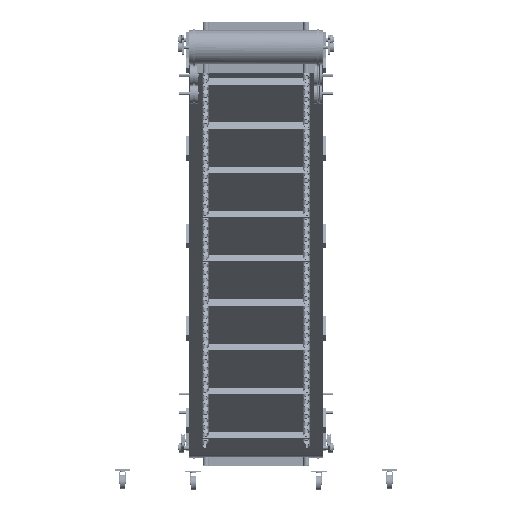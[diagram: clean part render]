
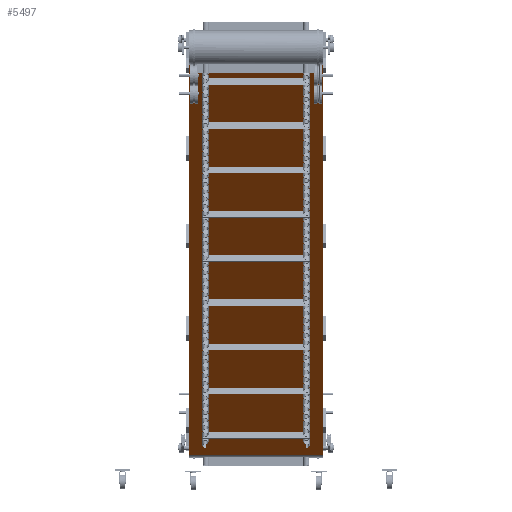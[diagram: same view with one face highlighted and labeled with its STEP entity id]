
A CAD part, top view. The second image highlights one B-rep face of the part: STEP entity #5497.
In plain terms, the highlighted planar face has unit normal (0, -0.758, 0.652) as drawn and (0.652, -0.759, 0) by its records, which use the part's own axes.
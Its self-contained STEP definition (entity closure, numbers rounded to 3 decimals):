
#2142=B_SPLINE_CURVE_WITH_KNOTS('',3,(#58841,#58842,#58843,#58844),
 .UNSPECIFIED.,.F.,.F.,(4,4),(0.,1.),.UNSPECIFIED.);
#2144=B_SPLINE_CURVE_WITH_KNOTS('',1,(#58849,#58850),.UNSPECIFIED.,.F.,
 .F.,(2,2),(0.,1.),.UNSPECIFIED.);
#2145=B_SPLINE_CURVE_WITH_KNOTS('',1,(#58901,#58902),.UNSPECIFIED.,.F.,
 .F.,(2,2),(0.,1.),.UNSPECIFIED.);
#3646=PLANE('',#38365);
#5497=ADVANCED_FACE('',(#8457),#3646,.T.);
#8457=FACE_OUTER_BOUND('',#10590,.T.);
#10590=EDGE_LOOP('',(#17450,#17451,#17452,#17453,#17454,#17455,#17456,#17457));
#12413=LINE('',#59024,#13310);
#12415=LINE('',#59028,#13312);
#12416=LINE('',#59030,#13313);
#12417=LINE('',#59032,#13314);
#12418=LINE('',#59034,#13315);
#13310=VECTOR('',#41358,1.);
#13312=VECTOR('',#41362,1.);
#13313=VECTOR('',#41363,1.);
#13314=VECTOR('',#41364,1.);
#13315=VECTOR('',#41365,1.);
#17450=ORIENTED_EDGE('',*,*,#31258,.F.);
#17451=ORIENTED_EDGE('',*,*,#31260,.T.);
#17452=ORIENTED_EDGE('',*,*,#31276,.T.);
#17453=ORIENTED_EDGE('',*,*,#31319,.T.);
#17454=ORIENTED_EDGE('',*,*,#31320,.T.);
#17455=ORIENTED_EDGE('',*,*,#31321,.T.);
#17456=ORIENTED_EDGE('',*,*,#31322,.T.);
#17457=ORIENTED_EDGE('',*,*,#31317,.F.);
#26785=VERTEX_POINT('',#58840);
#26786=VERTEX_POINT('',#58845);
#26787=VERTEX_POINT('',#58851);
#26802=VERTEX_POINT('',#58900);
#26818=VERTEX_POINT('',#59025);
#26819=VERTEX_POINT('',#59029);
#26820=VERTEX_POINT('',#59031);
#26821=VERTEX_POINT('',#59033);
#31258=EDGE_CURVE('',#26785,#26786,#2142,.T.);
#31260=EDGE_CURVE('',#26785,#26787,#2144,.T.);
#31276=EDGE_CURVE('',#26787,#26802,#2145,.T.);
#31317=EDGE_CURVE('',#26786,#26818,#12413,.T.);
#31319=EDGE_CURVE('',#26802,#26819,#12415,.T.);
#31320=EDGE_CURVE('',#26819,#26820,#12416,.T.);
#31321=EDGE_CURVE('',#26820,#26821,#12417,.T.);
#31322=EDGE_CURVE('',#26821,#26818,#12418,.T.);
#38365=AXIS2_PLACEMENT_3D('',#59035,#41366,#41367);
#41358=DIRECTION('',(0.,0.,-1.));
#41362=DIRECTION('',(0.,0.,1.));
#41363=DIRECTION('',(0.,0.,1.));
#41364=DIRECTION('',(0.,0.,1.));
#41365=DIRECTION('',(0.,0.,1.));
#41366=DIRECTION('',(0.652,-0.759,0.));
#41367=DIRECTION('',(0.759,0.652,0.));
#58840=CARTESIAN_POINT('',(-557.952,-1510.011,950.));
#58841=CARTESIAN_POINT('',(-557.952,-1510.011,950.));
#58842=CARTESIAN_POINT('',(513.093,-589.84,950.));
#58843=CARTESIAN_POINT('',(1584.138,330.33,950.));
#58844=CARTESIAN_POINT('',(2655.183,1250.5,950.));
#58845=CARTESIAN_POINT('',(2655.183,1250.5,950.));
#58849=CARTESIAN_POINT('',(-557.952,-1510.011,950.));
#58850=CARTESIAN_POINT('',(-557.952,-1510.011,0.));
#58851=CARTESIAN_POINT('',(-557.952,-1510.011,0.));
#58900=CARTESIAN_POINT('',(2655.183,1250.5,0.));
#58901=CARTESIAN_POINT('',(-557.952,-1510.011,0.));
#58902=CARTESIAN_POINT('',(2655.183,1250.5,0.));
#59024=CARTESIAN_POINT('',(2655.183,1250.5,936.75));
#59025=CARTESIAN_POINT('',(2655.183,1250.5,923.5));
#59028=CARTESIAN_POINT('',(2655.183,1250.5,13.25));
#59029=CARTESIAN_POINT('',(2655.183,1250.5,26.5));
#59030=CARTESIAN_POINT('',(2655.183,1250.5,35.));
#59031=CARTESIAN_POINT('',(2655.183,1250.5,43.5));
#59032=CARTESIAN_POINT('',(2655.183,1250.5,475.));
#59033=CARTESIAN_POINT('',(2655.183,1250.5,906.5));
#59034=CARTESIAN_POINT('',(2655.183,1250.5,915.));
#59035=CARTESIAN_POINT('',(-557.952,-1510.011,0.));
